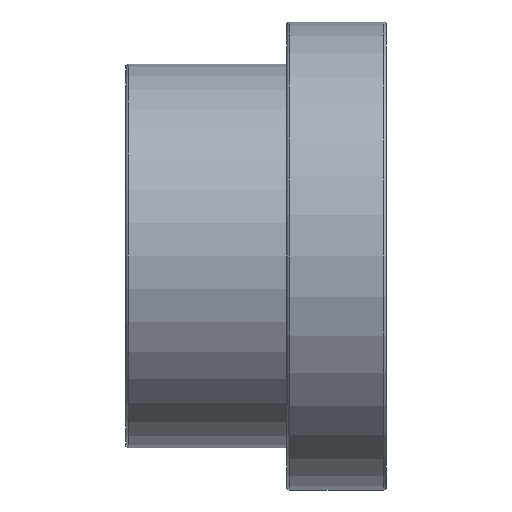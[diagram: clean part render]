
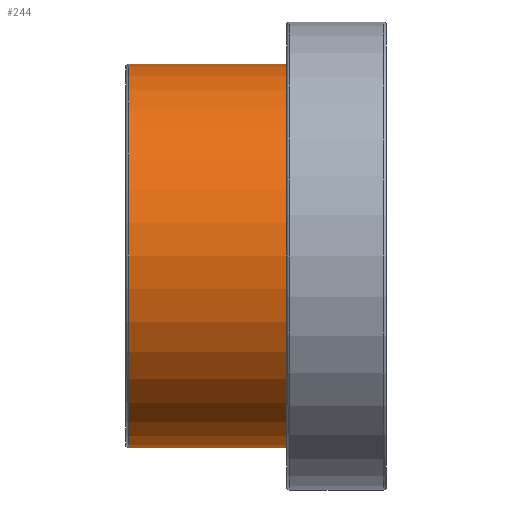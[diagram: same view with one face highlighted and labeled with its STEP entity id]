
A CAD part, front view. The second image highlights one B-rep face of the part: STEP entity #244.
In plain terms, the highlighted cylindrical face has radius 25 mm (diameter 50 mm), a full revolution.
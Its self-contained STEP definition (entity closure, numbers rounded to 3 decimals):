
#20=CYLINDRICAL_SURFACE('',#288,25.);
#46=FACE_BOUND('',#108,.T.);
#67=FACE_OUTER_BOUND('',#107,.T.);
#107=EDGE_LOOP('',(#212));
#108=EDGE_LOOP('',(#213));
#130=CIRCLE('',#285,25.);
#131=CIRCLE('',#287,25.);
#151=VERTEX_POINT('',#433);
#152=VERTEX_POINT('',#436);
#172=EDGE_CURVE('',#151,#151,#130,.T.);
#173=EDGE_CURVE('',#152,#152,#131,.T.);
#212=ORIENTED_EDGE('',*,*,#172,.T.);
#213=ORIENTED_EDGE('',*,*,#173,.F.);
#244=ADVANCED_FACE('',(#67,#46),#20,.T.);
#285=AXIS2_PLACEMENT_3D('',#434,#366,#367);
#287=AXIS2_PLACEMENT_3D('',#437,#370,#371);
#288=AXIS2_PLACEMENT_3D('',#438,#372,#373);
#366=DIRECTION('center_axis',(-1.,0.,0.));
#367=DIRECTION('ref_axis',(0.,0.,1.));
#370=DIRECTION('center_axis',(-1.,0.,0.));
#371=DIRECTION('ref_axis',(0.,1.,0.));
#372=DIRECTION('center_axis',(-1.,0.,0.));
#373=DIRECTION('ref_axis',(0.,-1.,0.));
#433=CARTESIAN_POINT('',(21.,-25.,0.));
#434=CARTESIAN_POINT('Origin',(21.,0.,0.));
#436=CARTESIAN_POINT('',(0.4,-25.,0.));
#437=CARTESIAN_POINT('Origin',(0.4,0.,0.));
#438=CARTESIAN_POINT('Origin',(10.5,0.,0.));
